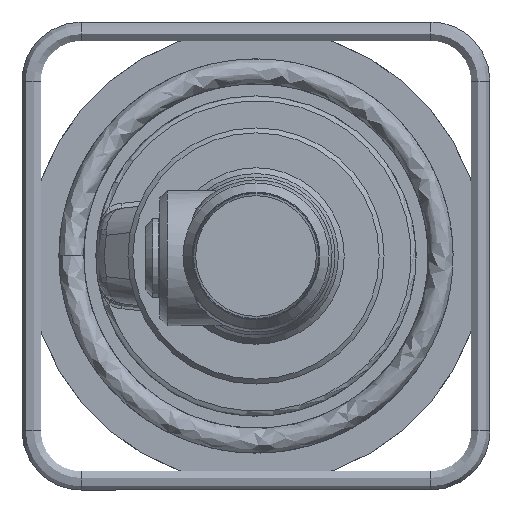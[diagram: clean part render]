
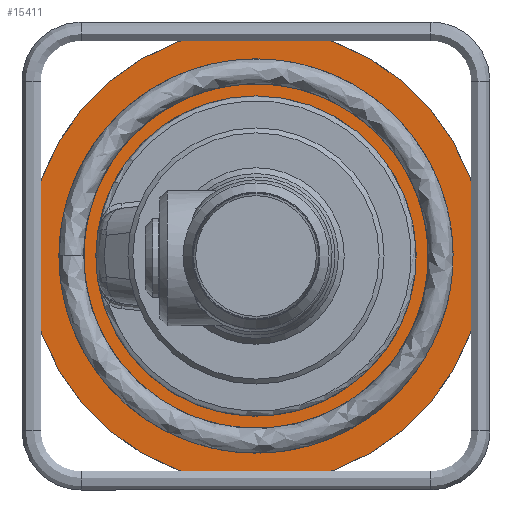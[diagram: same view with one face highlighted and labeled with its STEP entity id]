
A CAD part, left-side view. The second image highlights one B-rep face of the part: STEP entity #15411.
In plain terms, the highlighted planar face has unit normal (-1, 0, 0).
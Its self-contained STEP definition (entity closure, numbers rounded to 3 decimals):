
#1496=PLANE('',#16321);
#3557=FACE_BOUND('',#5362,.T.);
#4363=FACE_OUTER_BOUND('',#5361,.T.);
#5361=EDGE_LOOP('',(#13610));
#5362=EDGE_LOOP('',(#13611));
#5938=CIRCLE('',#16300,92.5);
#5939=CIRCLE('',#16322,63.);
#7417=VERTEX_POINT('',#32064);
#7418=VERTEX_POINT('',#32087);
#9528=EDGE_CURVE('',#7417,#7417,#5938,.T.);
#9529=EDGE_CURVE('',#7418,#7418,#5939,.T.);
#13610=ORIENTED_EDGE('',*,*,#9528,.F.);
#13611=ORIENTED_EDGE('',*,*,#9529,.F.);
#15411=ADVANCED_FACE('',(#4363,#3557),#1496,.T.);
#16300=AXIS2_PLACEMENT_3D('',#32065,#18922,#18923);
#16321=AXIS2_PLACEMENT_3D('',#32086,#18964,#18965);
#16322=AXIS2_PLACEMENT_3D('',#32088,#18966,#18967);
#18922=DIRECTION('center_axis',(1.,0.,0.));
#18923=DIRECTION('ref_axis',(0.,0.644,0.765));
#18964=DIRECTION('center_axis',(-1.,0.,0.));
#18965=DIRECTION('ref_axis',(0.,0.644,0.765));
#18966=DIRECTION('center_axis',(-1.,0.,0.));
#18967=DIRECTION('ref_axis',(0.,0.,
-1.));
#32064=CARTESIAN_POINT('',(0.,70.782,-59.55));
#32065=CARTESIAN_POINT('Origin',(0.,0.,0.));
#32086=CARTESIAN_POINT('Origin',(0.,70.782,
-59.55));
#32087=CARTESIAN_POINT('',(0.,0.,63.));
#32088=CARTESIAN_POINT('Origin',(0.,0.,
0.));
